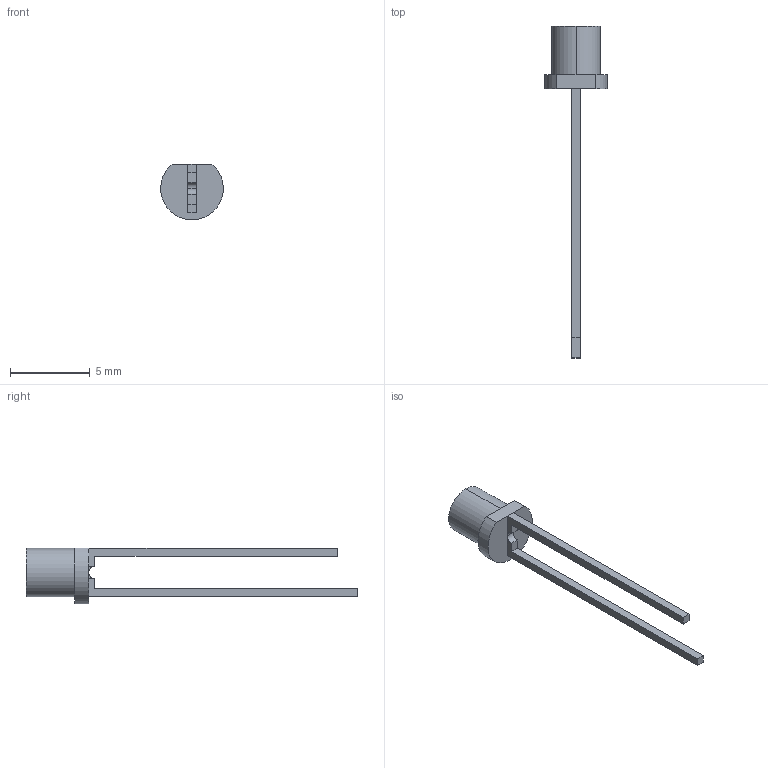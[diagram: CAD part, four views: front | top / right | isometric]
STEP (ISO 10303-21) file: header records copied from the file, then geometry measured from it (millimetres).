
FILE_DESCRIPTION (( 'STEP AP214' ), '1' );
FILE_NAME ('OP166W.STEP', '2018-03-28T19:37:37', ( '' ), ( '' ), 'SwSTEP 2.0', 'SolidWorks 2015', '' );
FILE_SCHEMA (( 'AUTOMOTIVE_DESIGN' ));
Length unit declared in the file: inch
Products named in the file (1): OP166W
Bounding box: 3.93 x 20.83 x 3.49 mm (x, y, z)
Volume: 41.1 mm3; surface area: 133.7 mm2
Topology: 5 solids, 5 shells, 33 faces, 67 edges, 44 vertices
Faces by surface type: plane 28, cylinder 5
Entity records: 939 total; most frequent: CARTESIAN_POINT 145, DIRECTION 145, ORIENTED_EDGE 134, EDGE_CURVE 67, LINE 57, VECTOR 57, VERTEX_POINT 44, AXIS2_PLACEMENT_3D 44
